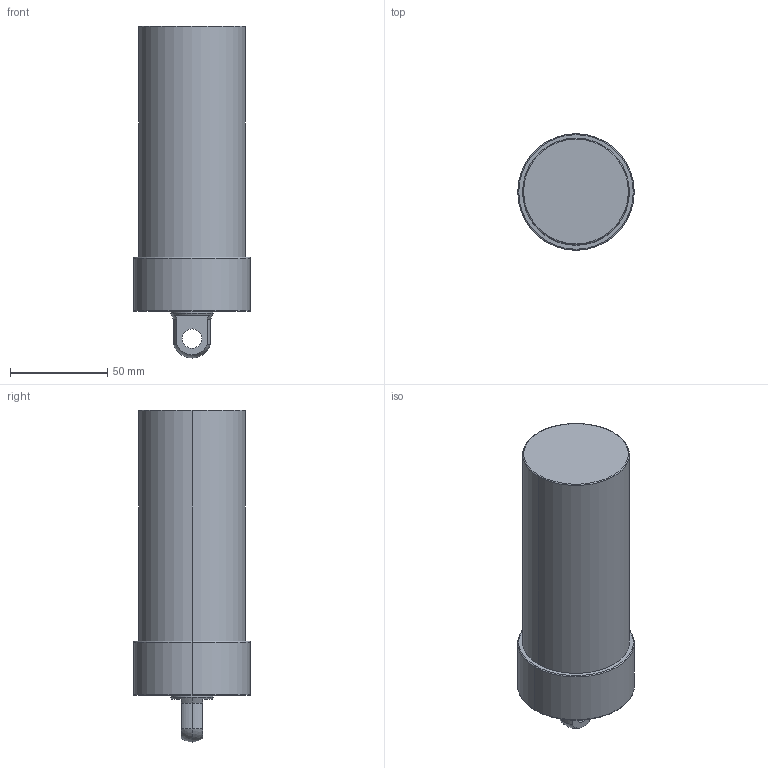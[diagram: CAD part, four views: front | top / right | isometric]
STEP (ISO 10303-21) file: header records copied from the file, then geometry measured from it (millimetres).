
FILE_DESCRIPTION (( 'STEP AP203' ), '1' );
FILE_NAME ('CLLU055-CP-090.STEP', '2017-05-15T07:57:03', ( '' ), ( '' ), 'SwSTEP 2.0', 'SolidWorks 2015', '' );
FILE_SCHEMA (( 'CONFIG_CONTROL_DESIGN' ));
Length unit declared in the file: millimetre
Products named in the file (1): CLLU055-CP-090
Bounding box: 60 x 60 x 171 mm (x, y, z)
Volume: 364121.1 mm3; surface area: 33815.4 mm2
Topology: 1 solids, 1 shells, 58 faces, 131 edges, 75 vertices
Faces by surface type: cylinder 23, cone 18, plane 9, torus 6, sphere 2
Entity records: 1658 total; most frequent: DIRECTION 311, CARTESIAN_POINT 269, ORIENTED_EDGE 246, AXIS2_PLACEMENT_3D 133, EDGE_CURVE 123, VERTEX_POINT 75, CIRCLE 74, EDGE_LOOP 68
